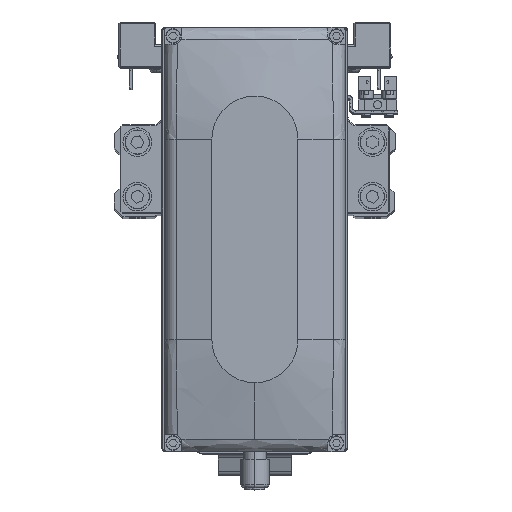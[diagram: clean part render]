
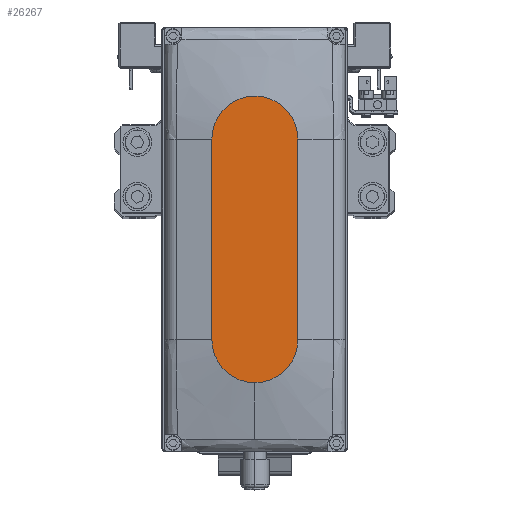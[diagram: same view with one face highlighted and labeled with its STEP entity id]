
A CAD part, top view. The second image highlights one B-rep face of the part: STEP entity #26267.
In plain terms, the highlighted planar face has unit normal (0, 0, 1).
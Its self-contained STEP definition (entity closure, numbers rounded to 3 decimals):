
#498 = DIRECTION ( 'NONE',  ( 1., 0., 0. ) ) ;
#600 = VERTEX_POINT ( 'NONE', #26491 ) ;
#926 = CARTESIAN_POINT ( 'NONE',  ( 50., 0., 35. ) ) ;
#1019 = EDGE_CURVE ( 'NONE', #29963, #12510, #29349, .T. ) ;
#1462 = VECTOR ( 'NONE', #14494, 1000. ) ;
#1748 = CIRCLE ( 'NONE', #24524, 15. ) ;
#2098 = CARTESIAN_POINT ( 'NONE',  ( -35., -15., 35. ) ) ;
#2495 = CARTESIAN_POINT ( 'NONE',  ( 0., 0., 35. ) ) ;
#4216 = CARTESIAN_POINT ( 'NONE',  ( 35., 0., 35. ) ) ;
#6455 = LINE ( 'NONE', #18861, #16886 ) ;
#7102 = EDGE_CURVE ( 'NONE', #9965, #29963, #30007, .T. ) ;
#9093 = ORIENTED_EDGE ( 'NONE', *, *, #14695, .T. ) ;
#9965 = VERTEX_POINT ( 'NONE', #31415 ) ;
#10916 = CARTESIAN_POINT ( 'NONE',  ( 35., 0., 35. ) ) ;
#11771 = AXIS2_PLACEMENT_3D ( 'NONE', #4216, #16638, #29098 ) ;
#12192 = EDGE_CURVE ( 'NONE', #12510, #27570, #30282, .T. ) ;
#12510 = VERTEX_POINT ( 'NONE', #926 ) ;
#14494 = DIRECTION ( 'NONE',  ( 1., 0., 0. ) ) ;
#14695 = EDGE_CURVE ( 'NONE', #27570, #600, #6455, .T. ) ;
#14889 = DIRECTION ( 'NONE',  ( 0., 0., 1. ) ) ;
#15933 = CARTESIAN_POINT ( 'NONE',  ( -35., 0., 35. ) ) ;
#16638 = DIRECTION ( 'NONE',  ( 0., 0., 1. ) ) ;
#16886 = VECTOR ( 'NONE', #31308, 1000. ) ;
#16913 = CARTESIAN_POINT ( 'NONE',  ( 35., -15., 35. ) ) ;
#17125 = AXIS2_PLACEMENT_3D ( 'NONE', #2495, #14889, #27340 ) ;
#17950 = FACE_OUTER_BOUND ( 'NONE', #31001, .T. ) ;
#18861 = CARTESIAN_POINT ( 'NONE',  ( -35., 15., 35. ) ) ;
#18947 = CARTESIAN_POINT ( 'NONE',  ( 35., 15., 35. ) ) ;
#19500 = EDGE_CURVE ( 'NONE', #600, #9965, #1748, .T. ) ;
#22827 = ORIENTED_EDGE ( 'NONE', *, *, #19500, .T. ) ;
#23369 = DIRECTION ( 'NONE',  ( 0., 0., 1. ) ) ;
#24524 = AXIS2_PLACEMENT_3D ( 'NONE', #15933, #28398, #498 ) ;
#26267 = ADVANCED_FACE ( 'NONE', ( #17950 ), #30393, .T. ) ;
#26485 = ORIENTED_EDGE ( 'NONE', *, *, #7102, .T. ) ;
#26491 = CARTESIAN_POINT ( 'NONE',  ( -35., 15., 35. ) ) ;
#27340 = DIRECTION ( 'NONE',  ( 1., 0., 0. ) ) ;
#27570 = VERTEX_POINT ( 'NONE', #18947 ) ;
#28398 = DIRECTION ( 'NONE',  ( 0., 0., 1. ) ) ;
#29098 = DIRECTION ( 'NONE',  ( 1., 0., 0. ) ) ;
#29349 = CIRCLE ( 'NONE', #11771, 15. ) ;
#29963 = VERTEX_POINT ( 'NONE', #16913 ) ;
#30007 = LINE ( 'NONE', #2098, #1462 ) ;
#30282 = CIRCLE ( 'NONE', #35477, 15. ) ;
#30393 = PLANE ( 'NONE',  #17125 ) ;
#31001 = EDGE_LOOP ( 'NONE', ( #9093, #22827, #26485, #34271, #34098 ) ) ;
#31308 = DIRECTION ( 'NONE',  ( -1., 0., 0. ) ) ;
#31415 = CARTESIAN_POINT ( 'NONE',  ( -35., -15., 35. ) ) ;
#34098 = ORIENTED_EDGE ( 'NONE', *, *, #12192, .T. ) ;
#34271 = ORIENTED_EDGE ( 'NONE', *, *, #1019, .T. ) ;
#35477 = AXIS2_PLACEMENT_3D ( 'NONE', #10916, #23369, #35771 ) ;
#35771 = DIRECTION ( 'NONE',  ( 1., 0., 0. ) ) ;
